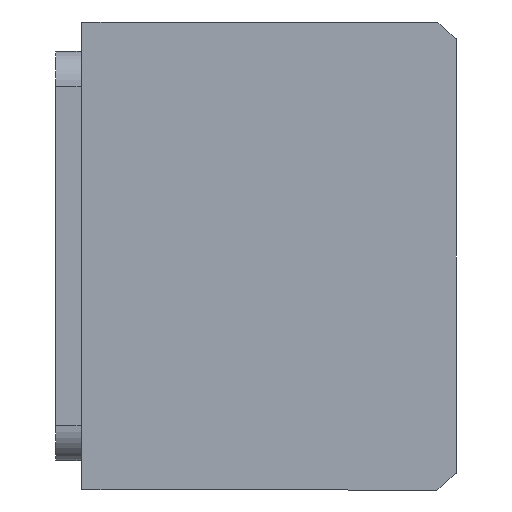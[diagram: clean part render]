
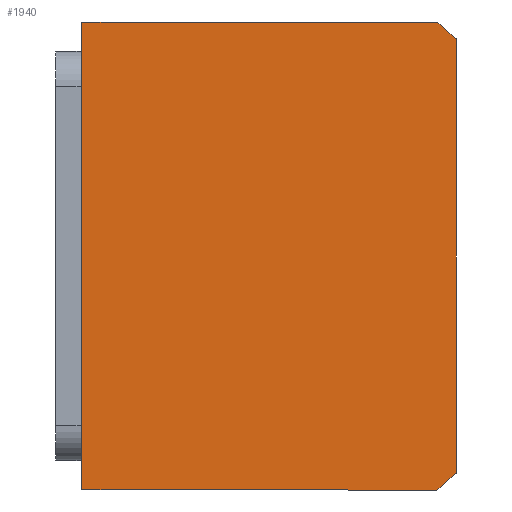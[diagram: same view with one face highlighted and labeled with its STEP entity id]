
A CAD part, front view. The second image highlights one B-rep face of the part: STEP entity #1940.
In plain terms, the highlighted planar face has unit normal (0, -1, 0) as drawn and (0, 0, -1) by its records, which use the part's own axes.
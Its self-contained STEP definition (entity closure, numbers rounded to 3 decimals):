
#285 = CARTESIAN_POINT ( 'NONE',  ( 40., -11.507, 0. ) ) ;
#334 = AXIS2_PLACEMENT_3D ( 'NONE', #3516, #9003, #4303 ) ;
#428 = CIRCLE ( 'NONE', #8189, 51. ) ;
#874 = EDGE_CURVE ( 'NONE', #6350, #9550, #5064, .T. ) ;
#881 = VECTOR ( 'NONE', #8707, 1000. ) ;
#1175 = VERTEX_POINT ( 'NONE', #4933 ) ;
#1312 = VERTEX_POINT ( 'NONE', #1360 ) ;
#1349 = CARTESIAN_POINT ( 'NONE',  ( 0., 0., 0. ) ) ;
#1360 = CARTESIAN_POINT ( 'NONE',  ( 40., -72.145, 0. ) ) ;
#1940 = ADVANCED_FACE ( 'NONE', ( #4055 ), #2168, .F. ) ;
#2168 = PLANE ( 'NONE',  #8487 ) ;
#2375 = CARTESIAN_POINT ( 'NONE',  ( 37.094, -75.507, 0. ) ) ;
#2975 = VECTOR ( 'NONE', #5037, 1000. ) ;
#3089 = LINE ( 'NONE', #7053, #6776 ) ;
#3186 = VERTEX_POINT ( 'NONE', #6954 ) ;
#3396 = ORIENTED_EDGE ( 'NONE', *, *, #8295, .F. ) ;
#3425 = CARTESIAN_POINT ( 'NONE',  ( 0., -40.507, 0. ) ) ;
#3516 = CARTESIAN_POINT ( 'NONE',  ( 0., -40.507, 0. ) ) ;
#3623 = CARTESIAN_POINT ( 'NONE',  ( -40., -11.507, 0. ) ) ;
#3893 = ORIENTED_EDGE ( 'NONE', *, *, #5089, .F. ) ;
#3960 = EDGE_CURVE ( 'NONE', #1175, #3186, #428, .T. ) ;
#4020 = ORIENTED_EDGE ( 'NONE', *, *, #3960, .F. ) ;
#4055 = FACE_OUTER_BOUND ( 'NONE', #4432, .T. ) ;
#4224 = DIRECTION ( 'NONE',  ( 1., 0., 0. ) ) ;
#4303 = DIRECTION ( 'NONE',  ( 1., 0., 0. ) ) ;
#4432 = EDGE_LOOP ( 'NONE', ( #4020, #7482, #4623, #8582, #3893, #3396 ) ) ;
#4608 = DIRECTION ( 'NONE',  ( 0., 0., 1. ) ) ;
#4623 = ORIENTED_EDGE ( 'NONE', *, *, #874, .F. ) ;
#4811 = VECTOR ( 'NONE', #5962, 1000. ) ;
#4933 = CARTESIAN_POINT ( 'NONE',  ( -40., -72.145, 0. ) ) ;
#5037 = DIRECTION ( 'NONE',  ( 0., 1., 0. ) ) ;
#5064 = LINE ( 'NONE', #3623, #4811 ) ;
#5089 = EDGE_CURVE ( 'NONE', #9085, #1312, #6728, .T. ) ;
#5194 = CARTESIAN_POINT ( 'NONE',  ( -40., -11.507, 0. ) ) ;
#5962 = DIRECTION ( 'NONE',  ( -1., 0., 0. ) ) ;
#6262 = EDGE_CURVE ( 'NONE', #9550, #1175, #7185, .T. ) ;
#6311 = EDGE_CURVE ( 'NONE', #1312, #6350, #6925, .T. ) ;
#6350 = VERTEX_POINT ( 'NONE', #8968 ) ;
#6728 = CIRCLE ( 'NONE', #334, 51. ) ;
#6776 = VECTOR ( 'NONE', #7857, 1000. ) ;
#6925 = LINE ( 'NONE', #285, #2975 ) ;
#6954 = CARTESIAN_POINT ( 'NONE',  ( -37.094, -75.507, 0. ) ) ;
#7053 = CARTESIAN_POINT ( 'NONE',  ( -40., -75.507, 0. ) ) ;
#7185 = LINE ( 'NONE', #7924, #881 ) ;
#7482 = ORIENTED_EDGE ( 'NONE', *, *, #6262, .F. ) ;
#7857 = DIRECTION ( 'NONE',  ( 1., 0., 0. ) ) ;
#7924 = CARTESIAN_POINT ( 'NONE',  ( -40., -11.507, 0. ) ) ;
#8189 = AXIS2_PLACEMENT_3D ( 'NONE', #3425, #8919, #4224 ) ;
#8295 = EDGE_CURVE ( 'NONE', #3186, #9085, #3089, .T. ) ;
#8487 = AXIS2_PLACEMENT_3D ( 'NONE', #1349, #4608, #10058 ) ;
#8582 = ORIENTED_EDGE ( 'NONE', *, *, #6311, .F. ) ;
#8707 = DIRECTION ( 'NONE',  ( 0., -1., 0. ) ) ;
#8919 = DIRECTION ( 'NONE',  ( 0., 0., 1. ) ) ;
#8968 = CARTESIAN_POINT ( 'NONE',  ( 40., -11.507, 0. ) ) ;
#9003 = DIRECTION ( 'NONE',  ( 0., 0., 1. ) ) ;
#9085 = VERTEX_POINT ( 'NONE', #2375 ) ;
#9550 = VERTEX_POINT ( 'NONE', #5194 ) ;
#10058 = DIRECTION ( 'NONE',  ( 1., 0., 0. ) ) ;
